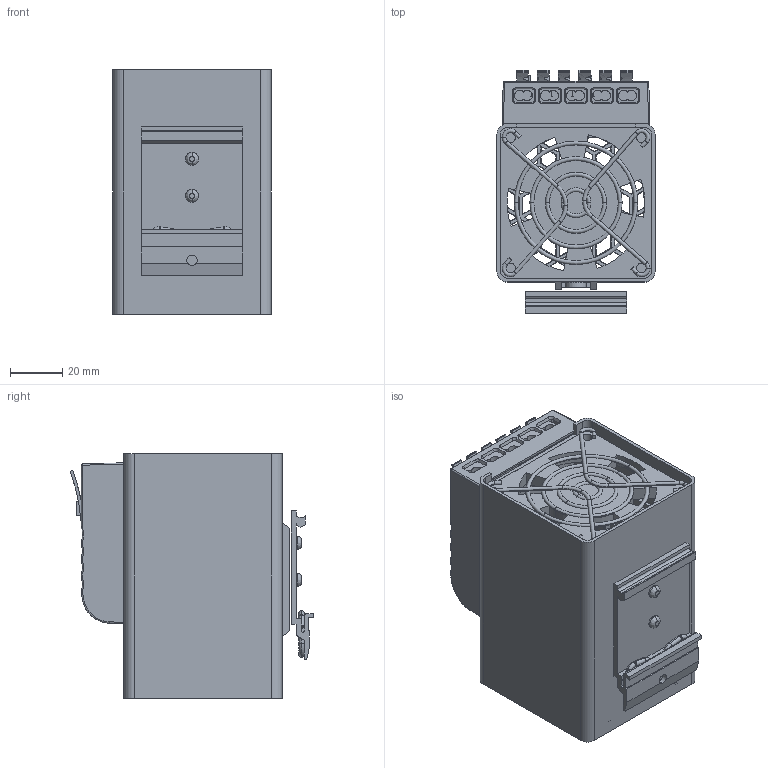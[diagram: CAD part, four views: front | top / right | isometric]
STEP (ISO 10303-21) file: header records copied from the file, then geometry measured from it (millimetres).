
FILE_DESCRIPTION (( 'STEP AP214' ), '1' );
FILE_NAME ('R5CHTF201_STEP_v1_062026.STEP', '2026-06-25T19:31:43', ( '' ), ( '' ), 'SwSTEP 2.0', 'SolidWorks 2022', '' );
FILE_SCHEMA (( 'AUTOMOTIVE_DESIGN' ));
Length unit declared in the file: millimetre
Products named in the file (1): R5CHTF201_STEP_v1_062026
Bounding box: 60.8 x 93.42 x 94 mm (x, y, z)
Volume: 89099.7 mm3; surface area: 105628.4 mm2
Topology: 18 solids, 22 shells, 1395 faces, 3790 edges, 2438 vertices
Faces by surface type: plane 845, cylinder 372, torus 68, cone 60, bspline 28, sphere 22
Entity records: 45352 total; most frequent: CARTESIAN_POINT 9929, ORIENTED_EDGE 7552, DIRECTION 7010, EDGE_CURVE 3776, LINE 2684, VECTOR 2684, VERTEX_POINT 2438, AXIS2_PLACEMENT_3D 2163
